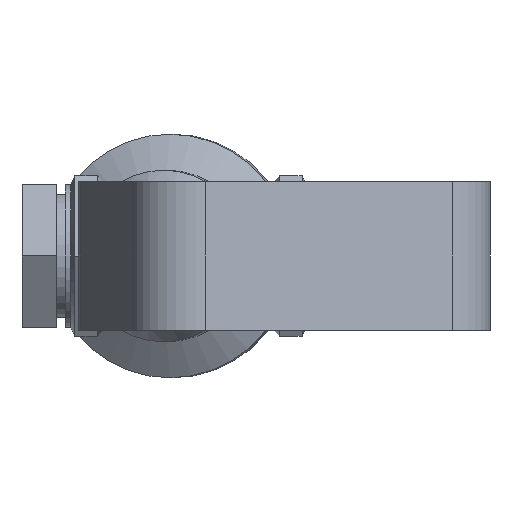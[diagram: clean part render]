
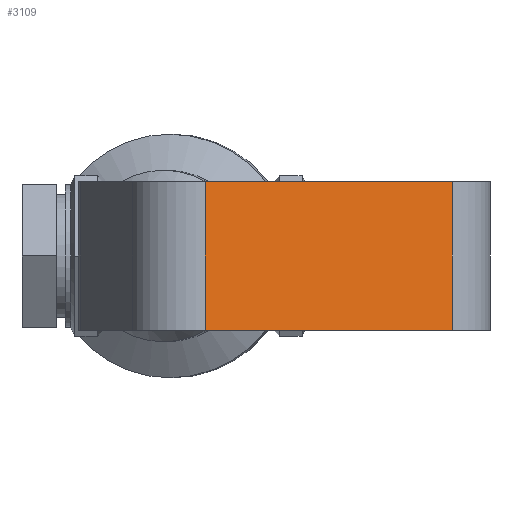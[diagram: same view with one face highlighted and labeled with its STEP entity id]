
A CAD part, front view. The second image highlights one B-rep face of the part: STEP entity #3109.
In plain terms, the highlighted planar face has unit normal (0.342, -0.94, 0).
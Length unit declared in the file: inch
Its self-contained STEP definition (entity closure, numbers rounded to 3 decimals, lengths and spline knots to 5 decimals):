
#110=PLANE('',#3438);
#245=FACE_OUTER_BOUND('',#427,.T.);
#427=EDGE_LOOP('',(#2167,#2168,#2169,#2170));
#619=LINE('',#5056,#865);
#626=LINE('',#5091,#872);
#627=LINE('',#5094,#873);
#628=LINE('',#5095,#874);
#865=VECTOR('',#3896,0.3937);
#872=VECTOR('',#3935,0.3937);
#873=VECTOR('',#3938,0.3937);
#874=VECTOR('',#3939,0.3937);
#1328=VERTEX_POINT('',#5053);
#1329=VERTEX_POINT('',#5055);
#1341=VERTEX_POINT('',#5089);
#1342=VERTEX_POINT('',#5093);
#1647=EDGE_CURVE('',#1328,#1329,#619,.T.);
#1664=EDGE_CURVE('',#1341,#1328,#626,.T.);
#1665=EDGE_CURVE('',#1342,#1341,#627,.T.);
#1666=EDGE_CURVE('',#1342,#1329,#628,.T.);
#2167=ORIENTED_EDGE('',*,*,#1664,.F.);
#2168=ORIENTED_EDGE('',*,*,#1665,.F.);
#2169=ORIENTED_EDGE('',*,*,#1666,.T.);
#2170=ORIENTED_EDGE('',*,*,#1647,.F.);
#3109=ADVANCED_FACE('',(#245),#110,.T.);
#3438=AXIS2_PLACEMENT_3D('',#5092,#3936,#3937);
#3896=DIRECTION('',(-0.94,-0.342,0.));
#3935=DIRECTION('',(0.,0.,-1.));
#3936=DIRECTION('center_axis',(0.342,-0.94,0.));
#3937=DIRECTION('ref_axis',(0.94,0.342,0.));
#3938=DIRECTION('',(0.94,0.342,0.));
#3939=DIRECTION('',(0.,0.,-1.));
#5053=CARTESIAN_POINT('',(2.30981,-4.96272,-0.65));
#5055=CARTESIAN_POINT('',(0.1472,-5.74985,-0.65));
#5056=CARTESIAN_POINT('',(2.30981,-4.96272,-0.65));
#5089=CARTESIAN_POINT('',(2.30981,-4.96272,0.65));
#5091=CARTESIAN_POINT('',(2.30981,-4.96272,0.));
#5092=CARTESIAN_POINT('Origin',(0.1472,-5.74985,0.));
#5093=CARTESIAN_POINT('',(0.1472,-5.74985,0.65));
#5094=CARTESIAN_POINT('',(2.30981,-4.96272,0.65));
#5095=CARTESIAN_POINT('',(0.1472,-5.74985,0.));
